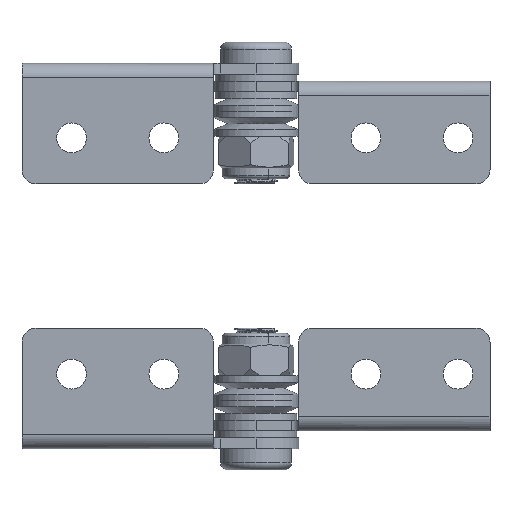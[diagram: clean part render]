
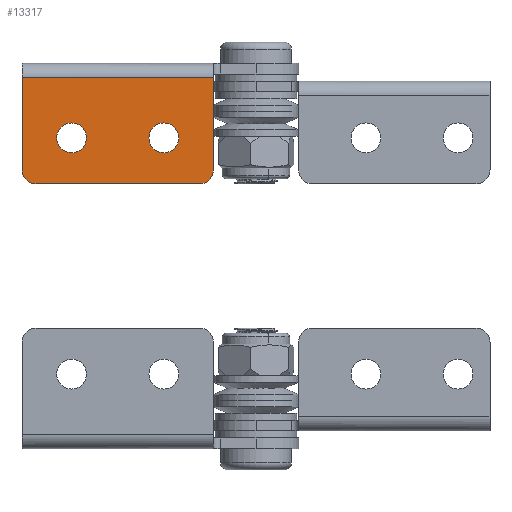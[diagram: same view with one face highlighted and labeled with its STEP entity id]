
A CAD part, front view. The second image highlights one B-rep face of the part: STEP entity #13317.
In plain terms, the highlighted planar face has unit normal (0, -1, 0).
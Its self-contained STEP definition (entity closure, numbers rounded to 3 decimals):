
#575 = DIRECTION ( 'NONE',  ( 1., 0., 0. ) ) ;
#610 = DIRECTION ( 'NONE',  ( 0., 0., -1. ) ) ;
#691 = EDGE_LOOP ( 'NONE', ( #1606, #19618 ) ) ;
#811 = CARTESIAN_POINT ( 'NONE',  ( -6., 0., -1.5 ) ) ;
#880 = CARTESIAN_POINT ( 'NONE',  ( -26., 0., -10.5 ) ) ;
#931 = DIRECTION ( 'NONE',  ( 0., 0., 1. ) ) ;
#1357 = VERTEX_POINT ( 'NONE', #18167 ) ;
#1606 = ORIENTED_EDGE ( 'NONE', *, *, #9901, .F. ) ;
#1792 = CARTESIAN_POINT ( 'NONE',  ( -13., 0., -10.5 ) ) ;
#1914 = VECTOR ( 'NONE', #7964, 1000. ) ;
#2012 = DIRECTION ( 'NONE',  ( 0., 0., 1. ) ) ;
#2022 = DIRECTION ( 'NONE',  ( 0., 0., -1. ) ) ;
#2149 = VECTOR ( 'NONE', #931, 1000. ) ;
#2220 = EDGE_CURVE ( 'NONE', #16921, #4768, #9558, .T. ) ;
#3602 = AXIS2_PLACEMENT_3D ( 'NONE', #13060, #15195, #2012 ) ;
#3701 = ORIENTED_EDGE ( 'NONE', *, *, #21650, .F. ) ;
#3720 = ORIENTED_EDGE ( 'NONE', *, *, #21900, .F. ) ;
#3972 = CARTESIAN_POINT ( 'NONE',  ( -13., 0., -8.4 ) ) ;
#4317 = FACE_OUTER_BOUND ( 'NONE', #18267, .T. ) ;
#4389 = AXIS2_PLACEMENT_3D ( 'NONE', #811, #17068, #575 ) ;
#4689 = CARTESIAN_POINT ( 'NONE',  ( -13., 0., -10.5 ) ) ;
#4768 = VERTEX_POINT ( 'NONE', #5632 ) ;
#5134 = LINE ( 'NONE', #9034, #6338 ) ;
#5632 = CARTESIAN_POINT ( 'NONE',  ( -33., 0., -2. ) ) ;
#5896 = EDGE_CURVE ( 'NONE', #16921, #1357, #22792, .T. ) ;
#6068 = CARTESIAN_POINT ( 'NONE',  ( -8., 0., -17. ) ) ;
#6270 = EDGE_LOOP ( 'NONE', ( #3720, #3701 ) ) ;
#6338 = VECTOR ( 'NONE', #10589, 1000. ) ;
#7058 = DIRECTION ( 'NONE',  ( 0., -1., 0. ) ) ;
#7081 = VERTEX_POINT ( 'NONE', #11608 ) ;
#7106 = CIRCLE ( 'NONE', #3602, 2. ) ;
#7607 = EDGE_CURVE ( 'NONE', #12786, #21199, #7106, .T. ) ;
#7964 = DIRECTION ( 'NONE',  ( 0., 0., 1. ) ) ;
#8291 = AXIS2_PLACEMENT_3D ( 'NONE', #1792, #16565, #2022 ) ;
#9034 = CARTESIAN_POINT ( 'NONE',  ( -31., 0., -17. ) ) ;
#9092 = AXIS2_PLACEMENT_3D ( 'NONE', #4689, #10275, #14145 ) ;
#9558 = LINE ( 'NONE', #20663, #1914 ) ;
#9683 = PLANE ( 'NONE',  #4389 ) ;
#9684 = CARTESIAN_POINT ( 'NONE',  ( -33., 0., -15. ) ) ;
#9797 = FACE_BOUND ( 'NONE', #691, .T. ) ;
#9807 = DIRECTION ( 'NONE',  ( -1., 0., 0. ) ) ;
#9901 = EDGE_CURVE ( 'NONE', #7081, #10324, #13337, .T. ) ;
#10001 = CARTESIAN_POINT ( 'NONE',  ( -13., 0., -12.6 ) ) ;
#10275 = DIRECTION ( 'NONE',  ( 0., -1., 0. ) ) ;
#10290 = EDGE_CURVE ( 'NONE', #10324, #7081, #15844, .T. ) ;
#10324 = VERTEX_POINT ( 'NONE', #12884 ) ;
#10589 = DIRECTION ( 'NONE',  ( 1., 0., 0. ) ) ;
#11185 = ORIENTED_EDGE ( 'NONE', *, *, #17112, .T. ) ;
#11608 = CARTESIAN_POINT ( 'NONE',  ( -26., 0., -12.6 ) ) ;
#11731 = CARTESIAN_POINT ( 'NONE',  ( -6., 0., -1.5 ) ) ;
#11759 = CARTESIAN_POINT ( 'NONE',  ( -31., 0., -15. ) ) ;
#12275 = VERTEX_POINT ( 'NONE', #20350 ) ;
#12278 = DIRECTION ( 'NONE',  ( 0., -1., 0. ) ) ;
#12652 = DIRECTION ( 'NONE',  ( 0., 0., -1. ) ) ;
#12698 = ORIENTED_EDGE ( 'NONE', *, *, #20703, .T. ) ;
#12786 = VERTEX_POINT ( 'NONE', #6068 ) ;
#12884 = CARTESIAN_POINT ( 'NONE',  ( -26., 0., -8.4 ) ) ;
#13055 = VERTEX_POINT ( 'NONE', #3972 ) ;
#13060 = CARTESIAN_POINT ( 'NONE',  ( -8., 0., -15. ) ) ;
#13317 = ADVANCED_FACE ( 'NONE', ( #4317, #13427, #9797 ), #9683, .F. ) ;
#13337 = CIRCLE ( 'NONE', #21056, 2.1 ) ;
#13427 = FACE_BOUND ( 'NONE', #6270, .T. ) ;
#13504 = EDGE_CURVE ( 'NONE', #1357, #12786, #5134, .T. ) ;
#13813 = DIRECTION ( 'NONE',  ( 0., -1., 0. ) ) ;
#14027 = CARTESIAN_POINT ( 'NONE',  ( -33., 0., -2. ) ) ;
#14045 = ORIENTED_EDGE ( 'NONE', *, *, #7607, .T. ) ;
#14145 = DIRECTION ( 'NONE',  ( 0., 0., -1. ) ) ;
#14245 = AXIS2_PLACEMENT_3D ( 'NONE', #16266, #7058, #12652 ) ;
#14297 = AXIS2_PLACEMENT_3D ( 'NONE', #11759, #13813, #610 ) ;
#15195 = DIRECTION ( 'NONE',  ( 0., -1., 0. ) ) ;
#15844 = CIRCLE ( 'NONE', #14245, 2.1 ) ;
#15993 = VECTOR ( 'NONE', #9807, 1000. ) ;
#16266 = CARTESIAN_POINT ( 'NONE',  ( -26., 0., -10.5 ) ) ;
#16565 = DIRECTION ( 'NONE',  ( 0., -1., 0. ) ) ;
#16921 = VERTEX_POINT ( 'NONE', #9684 ) ;
#17068 = DIRECTION ( 'NONE',  ( 0., 1., 0. ) ) ;
#17112 = EDGE_CURVE ( 'NONE', #21199, #12275, #17541, .T. ) ;
#17541 = LINE ( 'NONE', #11731, #2149 ) ;
#17588 = CIRCLE ( 'NONE', #9092, 2.1 ) ;
#17675 = LINE ( 'NONE', #14027, #15993 ) ;
#17827 = VERTEX_POINT ( 'NONE', #10001 ) ;
#18167 = CARTESIAN_POINT ( 'NONE',  ( -31., 0., -17. ) ) ;
#18267 = EDGE_LOOP ( 'NONE', ( #11185, #12698, #19645, #20741, #22986, #14045 ) ) ;
#19299 = DIRECTION ( 'NONE',  ( 0., 0., -1. ) ) ;
#19618 = ORIENTED_EDGE ( 'NONE', *, *, #10290, .F. ) ;
#19645 = ORIENTED_EDGE ( 'NONE', *, *, #2220, .F. ) ;
#19887 = CIRCLE ( 'NONE', #8291, 2.1 ) ;
#20350 = CARTESIAN_POINT ( 'NONE',  ( -6., 0., -2. ) ) ;
#20663 = CARTESIAN_POINT ( 'NONE',  ( -33., 0., -1.5 ) ) ;
#20703 = EDGE_CURVE ( 'NONE', #12275, #4768, #17675, .T. ) ;
#20741 = ORIENTED_EDGE ( 'NONE', *, *, #5896, .T. ) ;
#21056 = AXIS2_PLACEMENT_3D ( 'NONE', #880, #12278, #19299 ) ;
#21199 = VERTEX_POINT ( 'NONE', #22711 ) ;
#21650 = EDGE_CURVE ( 'NONE', #13055, #17827, #17588, .T. ) ;
#21900 = EDGE_CURVE ( 'NONE', #17827, #13055, #19887, .T. ) ;
#22711 = CARTESIAN_POINT ( 'NONE',  ( -6., 0., -15. ) ) ;
#22792 = CIRCLE ( 'NONE', #14297, 2. ) ;
#22986 = ORIENTED_EDGE ( 'NONE', *, *, #13504, .T. ) ;
